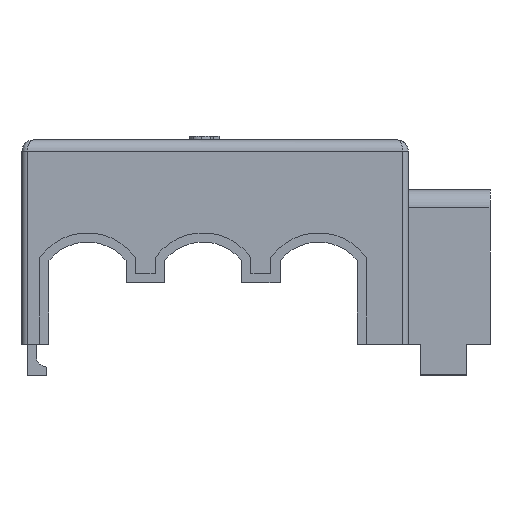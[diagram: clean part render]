
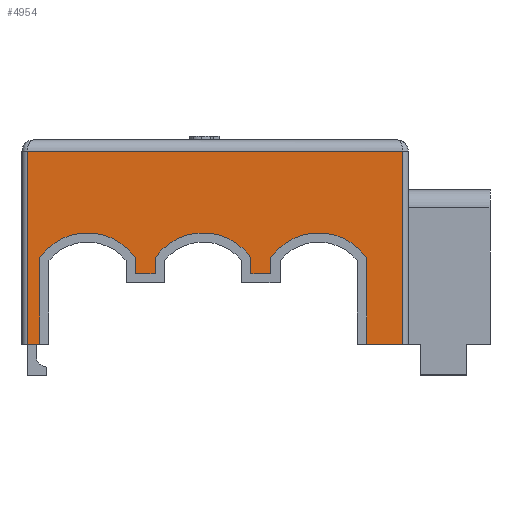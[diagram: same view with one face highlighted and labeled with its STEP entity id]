
A CAD part, left-side view. The second image highlights one B-rep face of the part: STEP entity #4954.
In plain terms, the highlighted planar face has unit normal (-1, 0, 0).
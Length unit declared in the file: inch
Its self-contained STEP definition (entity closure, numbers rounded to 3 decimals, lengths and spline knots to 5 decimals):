
#62=CIRCLE('',#5186,0.31528);
#64=CIRCLE('',#5192,0.31528);
#66=CIRCLE('',#5198,0.31528);
#427=FACE_OUTER_BOUND('',#699,.T.);
#699=EDGE_LOOP('',(#4340,#4341,#4342,#4343,#4344,#4345,#4346,#4347,#4348,
#4349,#4350,#4351,#4352,#4353,#4354,#4355));
#1143=LINE('',#8234,#1663);
#1274=LINE('',#8567,#1794);
#1277=LINE('',#8573,#1797);
#1281=LINE('',#8585,#1801);
#1284=LINE('',#8591,#1804);
#1287=LINE('',#8597,#1807);
#1291=LINE('',#8609,#1811);
#1294=LINE('',#8615,#1814);
#1297=LINE('',#8621,#1817);
#1301=LINE('',#8632,#1821);
#1329=LINE('',#8700,#1849);
#1330=LINE('',#8702,#1850);
#1331=LINE('',#8703,#1851);
#1663=VECTOR('',#5717,0.3937);
#1794=VECTOR('',#6022,0.3937);
#1797=VECTOR('',#6027,0.3937);
#1801=VECTOR('',#6039,0.3937);
#1804=VECTOR('',#6044,0.3937);
#1807=VECTOR('',#6049,0.3937);
#1811=VECTOR('',#6061,0.3937);
#1814=VECTOR('',#6066,0.3937);
#1817=VECTOR('',#6071,0.3937);
#1821=VECTOR('',#6083,0.3937);
#1849=VECTOR('',#6149,0.3937);
#1850=VECTOR('',#6150,0.3937);
#1851=VECTOR('',#6151,0.3937);
#2190=VERTEX_POINT('',#8231);
#2191=VERTEX_POINT('',#8233);
#2305=VERTEX_POINT('',#8564);
#2306=VERTEX_POINT('',#8566);
#2308=VERTEX_POINT('',#8572);
#2310=VERTEX_POINT('',#8578);
#2312=VERTEX_POINT('',#8584);
#2314=VERTEX_POINT('',#8590);
#2316=VERTEX_POINT('',#8596);
#2318=VERTEX_POINT('',#8602);
#2320=VERTEX_POINT('',#8608);
#2322=VERTEX_POINT('',#8614);
#2324=VERTEX_POINT('',#8620);
#2326=VERTEX_POINT('',#8626);
#2348=VERTEX_POINT('',#8699);
#2349=VERTEX_POINT('',#8701);
#2803=EDGE_CURVE('',#2191,#2190,#1143,.T.);
#2968=EDGE_CURVE('',#2306,#2305,#1274,.T.);
#2971=EDGE_CURVE('',#2190,#2308,#1277,.T.);
#2974=EDGE_CURVE('',#2308,#2310,#62,.T.);
#2977=EDGE_CURVE('',#2310,#2312,#1281,.T.);
#2980=EDGE_CURVE('',#2312,#2314,#1284,.T.);
#2983=EDGE_CURVE('',#2314,#2316,#1287,.T.);
#2986=EDGE_CURVE('',#2316,#2318,#64,.T.);
#2989=EDGE_CURVE('',#2318,#2320,#1291,.T.);
#2992=EDGE_CURVE('',#2320,#2322,#1294,.T.);
#2995=EDGE_CURVE('',#2322,#2324,#1297,.T.);
#2998=EDGE_CURVE('',#2324,#2326,#66,.T.);
#3001=EDGE_CURVE('',#2326,#2306,#1301,.T.);
#3035=EDGE_CURVE('',#2348,#2305,#1329,.T.);
#3036=EDGE_CURVE('',#2349,#2348,#1330,.T.);
#3037=EDGE_CURVE('',#2191,#2349,#1331,.T.);
#4340=ORIENTED_EDGE('',*,*,#3001,.T.);
#4341=ORIENTED_EDGE('',*,*,#2968,.T.);
#4342=ORIENTED_EDGE('',*,*,#3035,.F.);
#4343=ORIENTED_EDGE('',*,*,#3036,.F.);
#4344=ORIENTED_EDGE('',*,*,#3037,.F.);
#4345=ORIENTED_EDGE('',*,*,#2803,.T.);
#4346=ORIENTED_EDGE('',*,*,#2971,.T.);
#4347=ORIENTED_EDGE('',*,*,#2974,.T.);
#4348=ORIENTED_EDGE('',*,*,#2977,.T.);
#4349=ORIENTED_EDGE('',*,*,#2980,.T.);
#4350=ORIENTED_EDGE('',*,*,#2983,.T.);
#4351=ORIENTED_EDGE('',*,*,#2986,.T.);
#4352=ORIENTED_EDGE('',*,*,#2989,.T.);
#4353=ORIENTED_EDGE('',*,*,#2992,.T.);
#4354=ORIENTED_EDGE('',*,*,#2995,.T.);
#4355=ORIENTED_EDGE('',*,*,#2998,.T.);
#4700=PLANE('',#5219);
#4954=ADVANCED_FACE('',(#427),#4700,.T.);
#5186=AXIS2_PLACEMENT_3D('',#8579,#6032,#6033);
#5192=AXIS2_PLACEMENT_3D('',#8603,#6054,#6055);
#5198=AXIS2_PLACEMENT_3D('',#8627,#6076,#6077);
#5219=AXIS2_PLACEMENT_3D('',#8698,#6147,#6148);
#5717=DIRECTION('',(0.,-1.,0.));
#6022=DIRECTION('',(0.,-1.,0.));
#6027=DIRECTION('',(0.,0.,1.));
#6032=DIRECTION('center_axis',(1.,0.,0.));
#6033=DIRECTION('ref_axis',(0.,-0.817,0.577));
#6039=DIRECTION('',(0.,0.,-1.));
#6044=DIRECTION('',(0.,-1.,0.));
#6049=DIRECTION('',(0.,0.,1.));
#6054=DIRECTION('center_axis',(1.,0.,0.));
#6055=DIRECTION('ref_axis',(0.,-0.817,0.577));
#6061=DIRECTION('',(0.,0.,-1.));
#6066=DIRECTION('',(0.,-1.,0.));
#6071=DIRECTION('',(0.,0.,1.));
#6076=DIRECTION('center_axis',(1.,0.,0.));
#6077=DIRECTION('ref_axis',(0.,-0.817,0.577));
#6083=DIRECTION('',(0.,0.,-1.));
#6147=DIRECTION('center_axis',(-1.,0.,0.));
#6148=DIRECTION('ref_axis',(0.,-1.,0.));
#6149=DIRECTION('',(0.,0.,-1.));
#6150=DIRECTION('',(0.,-1.,0.));
#6151=DIRECTION('',(0.,0.,1.));
#8231=CARTESIAN_POINT('',(-1.345,1.883,0.));
#8233=CARTESIAN_POINT('',(-1.345,1.948,0.));
#8234=CARTESIAN_POINT('',(-1.345,1.978,0.));
#8564=CARTESIAN_POINT('',(-1.345,-0.072,0.));
#8566=CARTESIAN_POINT('',(-1.345,0.123,0.));
#8567=CARTESIAN_POINT('',(-1.345,1.978,0.));
#8572=CARTESIAN_POINT('',(-1.345,1.883,0.46664));
#8573=CARTESIAN_POINT('',(-1.345,1.883,0.23332));
#8578=CARTESIAN_POINT('',(-1.345,1.368,0.46664));
#8579=CARTESIAN_POINT('Origin',(-1.345,1.6255,0.28472));
#8584=CARTESIAN_POINT('',(-1.345,1.368,0.38));
#8585=CARTESIAN_POINT('',(-1.345,1.368,0.19));
#8590=CARTESIAN_POINT('',(-1.345,1.2605,0.38));
#8591=CARTESIAN_POINT('',(-1.345,1.61925,0.38));
#8596=CARTESIAN_POINT('',(-1.345,1.2605,0.46664));
#8597=CARTESIAN_POINT('',(-1.345,1.2605,0.23332));
#8602=CARTESIAN_POINT('',(-1.345,0.7455,0.46664));
#8603=CARTESIAN_POINT('Origin',(-1.345,1.003,0.28472));
#8608=CARTESIAN_POINT('',(-1.345,0.7455,0.38));
#8609=CARTESIAN_POINT('',(-1.345,0.7455,0.19));
#8614=CARTESIAN_POINT('',(-1.345,0.638,0.38));
#8615=CARTESIAN_POINT('',(-1.345,1.308,0.38));
#8620=CARTESIAN_POINT('',(-1.345,0.638,0.46664));
#8621=CARTESIAN_POINT('',(-1.345,0.638,0.23332));
#8626=CARTESIAN_POINT('',(-1.345,0.123,0.46664));
#8627=CARTESIAN_POINT('Origin',(-1.345,0.3805,0.28472));
#8632=CARTESIAN_POINT('',(-1.345,0.123,0.));
#8698=CARTESIAN_POINT('Origin',(-1.345,1.978,0.));
#8699=CARTESIAN_POINT('',(-1.345,-0.072,1.04));
#8700=CARTESIAN_POINT('',(-1.345,-0.072,0.));
#8701=CARTESIAN_POINT('',(-1.345,1.948,1.04));
#8702=CARTESIAN_POINT('',(-1.345,1.458,1.04));
#8703=CARTESIAN_POINT('',(-1.345,1.948,0.));
